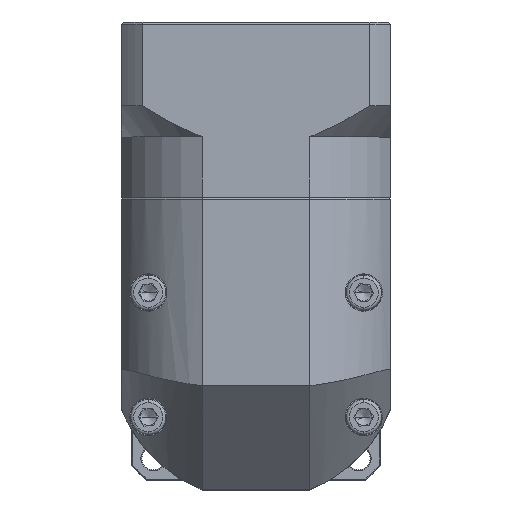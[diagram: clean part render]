
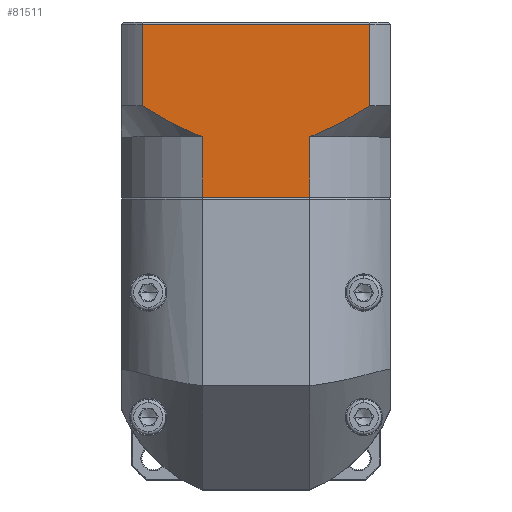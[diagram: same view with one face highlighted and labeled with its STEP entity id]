
A CAD part, top view. The second image highlights one B-rep face of the part: STEP entity #81511.
In plain terms, the highlighted planar face has unit normal (0, 0, 1).
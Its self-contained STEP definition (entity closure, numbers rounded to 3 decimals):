
#512 = CARTESIAN_POINT ( 'NONE',  ( -74.207, 84.526, 74.497 ) ) ;
#833 = CARTESIAN_POINT ( 'NONE',  ( -87.464, 91.293, 74.497 ) ) ;
#896 = CARTESIAN_POINT ( 'NONE',  ( -36.098, 90.564, 74.497 ) ) ;
#1197 = CARTESIAN_POINT ( 'NONE',  ( -76.745, 85.468, 74.497 ) ) ;
#1996 = CARTESIAN_POINT ( 'NONE',  ( -88.602, 84.526, 74.497 ) ) ;
#5787 = DIRECTION ( 'NONE',  ( 0., 0., -1. ) ) ;
#6147 = VERTEX_POINT ( 'NONE', #66400 ) ;
#7149 = EDGE_CURVE ( 'NONE', #36760, #54543, #68030, .T. ) ;
#9558 = VECTOR ( 'NONE', #100878, 1000. ) ;
#10018 = VECTOR ( 'NONE', #75186, 1000. ) ;
#12365 = ORIENTED_EDGE ( 'NONE', *, *, #7149, .T. ) ;
#12694 = VERTEX_POINT ( 'NONE', #98669 ) ;
#13418 = LINE ( 'NONE', #72731, #9558 ) ;
#14024 = FACE_OUTER_BOUND ( 'NONE', #97927, .T. ) ;
#14480 = CARTESIAN_POINT ( 'NONE',  ( -45.059, 85.816, 74.497 ) ) ;
#15566 = VECTOR ( 'NONE', #47785, 1000. ) ;
#16543 = CARTESIAN_POINT ( 'NONE',  ( -74.207, 84.526, 74.497 ) ) ;
#19761 = EDGE_CURVE ( 'NONE', #47324, #38419, #108616, .T. ) ;
#20915 = ORIENTED_EDGE ( 'NONE', *, *, #97264, .F. ) ;
#23975 = EDGE_CURVE ( 'NONE', #97167, #6147, #104311, .T. ) ;
#28034 = VECTOR ( 'NONE', #106724, 1000. ) ;
#29722 = VERTEX_POINT ( 'NONE', #42557 ) ;
#31197 = CARTESIAN_POINT ( 'NONE',  ( -41.993, 87.272, 74.497 ) ) ;
#31505 = EDGE_CURVE ( 'NONE', #29722, #38419, #95014, .T. ) ;
#31853 = ORIENTED_EDGE ( 'NONE', *, *, #19761, .F. ) ;
#31966 = PLANE ( 'NONE',  #54785 ) ;
#32182 = LINE ( 'NONE', #512, #10018 ) ;
#32654 = CARTESIAN_POINT ( 'NONE',  ( -33.83, 92.026, 74.497 ) ) ;
#32673 = CARTESIAN_POINT ( 'NONE',  ( -88.602, 92.026, 74.497 ) ) ;
#34460 = DIRECTION ( 'NONE',  ( 0., 1., 0. ) ) ;
#35403 = CARTESIAN_POINT ( 'NONE',  ( -48.226, 70.026, 74.497 ) ) ;
#36760 = VERTEX_POINT ( 'NONE', #57785 ) ;
#38419 = VERTEX_POINT ( 'NONE', #55060 ) ;
#39939 = CARTESIAN_POINT ( 'NONE',  ( -43.206, 86.667, 74.497 ) ) ;
#42074 = CARTESIAN_POINT ( 'NONE',  ( -79.197, 86.613, 74.497 ) ) ;
#42557 = CARTESIAN_POINT ( 'NONE',  ( -33.83, 111.726, 74.497 ) ) ;
#42862 = LINE ( 'NONE', #44883, #83547 ) ;
#44883 = CARTESIAN_POINT ( 'NONE',  ( -33.83, 84.526, 74.497 ) ) ;
#47324 = VERTEX_POINT ( 'NONE', #32673 ) ;
#47785 = DIRECTION ( 'NONE',  ( 1., 0., 0. ) ) ;
#50895 = CARTESIAN_POINT ( 'NONE',  ( -82.792, 88.523, 74.497 ) ) ;
#54543 = VERTEX_POINT ( 'NONE', #35403 ) ;
#54785 = AXIS2_PLACEMENT_3D ( 'NONE', #55839, #5787, #58398 ) ;
#55060 = CARTESIAN_POINT ( 'NONE',  ( -88.602, 111.726, 74.497 ) ) ;
#55839 = CARTESIAN_POINT ( 'NONE',  ( -93.716, 112.226, 74.497 ) ) ;
#56181 = CARTESIAN_POINT ( 'NONE',  ( -48.226, 84.526, 74.497 ) ) ;
#56871 = CARTESIAN_POINT ( 'NONE',  ( -48.226, 84.526, 74.497 ) ) ;
#57785 = CARTESIAN_POINT ( 'NONE',  ( -74.207, 70.026, 74.497 ) ) ;
#58185 = ORIENTED_EDGE ( 'NONE', *, *, #31505, .T. ) ;
#58398 = DIRECTION ( 'NONE',  ( 0., 1., 0. ) ) ;
#60435 = ORIENTED_EDGE ( 'NONE', *, *, #64940, .T. ) ;
#60889 = ORIENTED_EDGE ( 'NONE', *, *, #23975, .T. ) ;
#64530 = B_SPLINE_CURVE_WITH_KNOTS ( 'NONE', 3,
 ( #75161, #833, #76233, #75865, #50895, #42074, #1197, #16543 ),
 .UNSPECIFIED., .F., .F.,
 ( 4, 2, 2, 4 ),
 ( 0.058, 0.062, 0.066, 0.074 ),
 .UNSPECIFIED. ) ;
#64627 = CARTESIAN_POINT ( 'NONE',  ( -46.945, 85.017, 74.497 ) ) ;
#64940 = EDGE_CURVE ( 'NONE', #47324, #12694, #64530, .T. ) ;
#66400 = CARTESIAN_POINT ( 'NONE',  ( -33.83, 92.026, 74.497 ) ) ;
#68030 = LINE ( 'NONE', #81592, #15566 ) ;
#72731 = CARTESIAN_POINT ( 'NONE',  ( -48.226, 84.526, 74.497 ) ) ;
#74914 = EDGE_CURVE ( 'NONE', #29722, #6147, #42862, .T. ) ;
#75161 = CARTESIAN_POINT ( 'NONE',  ( -88.602, 92.026, 74.497 ) ) ;
#75186 = DIRECTION ( 'NONE',  ( 0., 1., 0. ) ) ;
#75865 = CARTESIAN_POINT ( 'NONE',  ( -83.978, 89.193, 74.497 ) ) ;
#76233 = CARTESIAN_POINT ( 'NONE',  ( -86.313, 90.577, 74.497 ) ) ;
#76477 = ORIENTED_EDGE ( 'NONE', *, *, #74914, .F. ) ;
#77549 = DIRECTION ( 'NONE',  ( 0., -1., 0. ) ) ;
#81511 = ADVANCED_FACE ( 'NONE', ( #14024 ), #31966, .F. ) ;
#81592 = CARTESIAN_POINT ( 'NONE',  ( -93.716, 70.026, 74.497 ) ) ;
#82929 = EDGE_CURVE ( 'NONE', #97167, #54543, #13418, .T. ) ;
#83547 = VECTOR ( 'NONE', #77549, 1000. ) ;
#90277 = CARTESIAN_POINT ( 'NONE',  ( -47.584, 84.764, 74.497 ) ) ;
#95014 = LINE ( 'NONE', #105287, #28034 ) ;
#95538 = VECTOR ( 'NONE', #34460, 1000. ) ;
#97167 = VERTEX_POINT ( 'NONE', #56871 ) ;
#97264 = EDGE_CURVE ( 'NONE', #36760, #12694, #32182, .T. ) ;
#97927 = EDGE_LOOP ( 'NONE', ( #76477, #58185, #31853, #60435, #20915, #12365, #108085, #60889 ) ) ;
#98669 = CARTESIAN_POINT ( 'NONE',  ( -74.207, 84.526, 74.497 ) ) ;
#98684 = CARTESIAN_POINT ( 'NONE',  ( -38.412, 89.177, 74.497 ) ) ;
#100878 = DIRECTION ( 'NONE',  ( 0., -1., 0. ) ) ;
#104311 = B_SPLINE_CURVE_WITH_KNOTS ( 'NONE', 3,
 ( #56181, #90277, #64627, #107436, #14480, #39939, #31197, #98684, #896, #32654 ),
 .UNSPECIFIED., .F., .F.,
 ( 4, 2, 2, 2, 4 ),
 ( 0.101, 0.103, 0.105, 0.109, 0.117 ),
 .UNSPECIFIED. ) ;
#105287 = CARTESIAN_POINT ( 'NONE',  ( -93.716, 111.726, 74.497 ) ) ;
#106724 = DIRECTION ( 'NONE',  ( -1., 0., 0. ) ) ;
#107436 = CARTESIAN_POINT ( 'NONE',  ( -45.683, 85.543, 74.497 ) ) ;
#108085 = ORIENTED_EDGE ( 'NONE', *, *, #82929, .F. ) ;
#108616 = LINE ( 'NONE', #1996, #95538 ) ;
